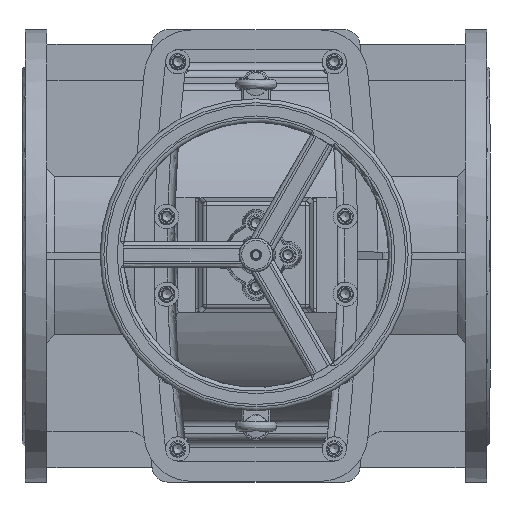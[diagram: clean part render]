
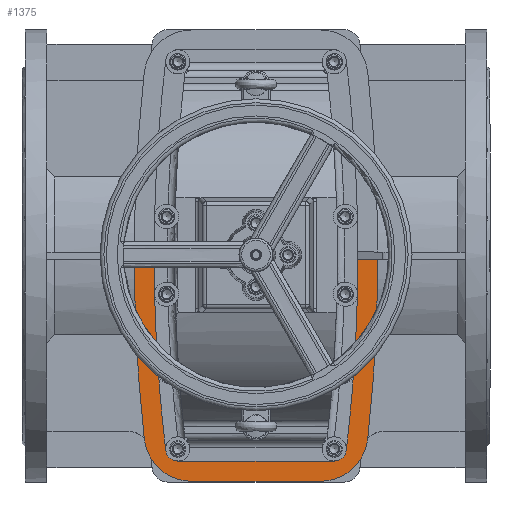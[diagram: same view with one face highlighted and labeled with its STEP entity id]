
A CAD part, top view. The second image highlights one B-rep face of the part: STEP entity #1375.
In plain terms, the highlighted planar face has unit normal (0, 0, 1).
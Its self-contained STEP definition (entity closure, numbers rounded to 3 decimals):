
#1375=ADVANCED_FACE('',(#7932),#7934,.T.);
#7932=FACE_BOUND('',#7933,.T.);
#7933=EDGE_LOOP('',(#27235,#27236,#27237,#27238,#27239,#27240,#27241,#27242,#27243,
#27244,#27245,#27246));
#7934=PLANE('',#7935);
#7935=AXIS2_PLACEMENT_3D('',#7936,#7937,#7938);
#7936=CARTESIAN_POINT('',(0.,0.,336.667));
#7937=DIRECTION('',(0.,0.,1.));
#7938=DIRECTION('',(-1.,0.,0.));
#27235=ORIENTED_EDGE('',*,*,#32142,.F.);
#27236=ORIENTED_EDGE('',*,*,#32352,.T.);
#27237=ORIENTED_EDGE('',*,*,#32353,.T.);
#27238=ORIENTED_EDGE('',*,*,#32354,.T.);
#27239=ORIENTED_EDGE('',*,*,#32355,.T.);
#27240=ORIENTED_EDGE('',*,*,#32356,.T.);
#27241=ORIENTED_EDGE('',*,*,#32098,.F.);
#27242=ORIENTED_EDGE('',*,*,#32351,.T.);
#27243=ORIENTED_EDGE('',*,*,#32357,.T.);
#27244=ORIENTED_EDGE('',*,*,#32358,.T.);
#27245=ORIENTED_EDGE('',*,*,#32359,.T.);
#27246=ORIENTED_EDGE('',*,*,#32360,.T.);
#32098=EDGE_CURVE('',#35072,#35074,#35075,.F.);
#32142=EDGE_CURVE('',#35153,#35155,#35156,.F.);
#32351=EDGE_CURVE('',#35072,#35545,#35547,.T.);
#32352=EDGE_CURVE('',#35153,#35548,#35549,.F.);
#32353=EDGE_CURVE('',#35548,#35550,#35551,.T.);
#32354=EDGE_CURVE('',#35550,#35552,#35553,.T.);
#32355=EDGE_CURVE('',#35552,#35554,#35555,.T.);
#32356=EDGE_CURVE('',#35554,#35074,#35556,.F.);
#32357=EDGE_CURVE('',#35545,#35557,#35558,.T.);
#32358=EDGE_CURVE('',#35557,#35559,#35560,.T.);
#32359=EDGE_CURVE('',#35559,#35561,#35562,.T.);
#32360=EDGE_CURVE('',#35561,#35155,#35563,.T.);
#35072=VERTEX_POINT('',#46223);
#35074=VERTEX_POINT('',#46227);
#35075=LINE('',#46228,#46229);
#35153=VERTEX_POINT('',#46672);
#35155=VERTEX_POINT('',#46676);
#35156=LINE('',#46677,#46678);
#35545=VERTEX_POINT('',#47760);
#35547=CIRCLE('',#47764,2130.302);
#35548=VERTEX_POINT('',#47768);
#35549=CIRCLE('',#47769,2078.302);
#35550=VERTEX_POINT('',#47773);
#35551=CIRCLE('',#47774,9.333);
#35552=VERTEX_POINT('',#47778);
#35553=LINE('',#47779,#47780);
#35554=VERTEX_POINT('',#47782);
#35555=CIRCLE('',#47783,9.333);
#35556=CIRCLE('',#47787,2078.302);
#35557=VERTEX_POINT('',#47791);
#35558=CIRCLE('',#47792,61.333);
#35559=VERTEX_POINT('',#47796);
#35560=LINE('',#47797,#47798);
#35561=VERTEX_POINT('',#47800);
#35562=CIRCLE('',#47801,61.333);
#35563=CIRCLE('',#47805,2130.302);
#46223=CARTESIAN_POINT('',(-156.229,-4.667,336.667));
#46227=CARTESIAN_POINT('',(-104.228,-4.667,336.667));
#46228=CARTESIAN_POINT('',(-104.228,-4.667,336.667));
#46229=VECTOR('',#46230,1.);
#46230=DIRECTION('',(-1.,0.,0.));
#46672=CARTESIAN_POINT('',(104.228,-4.667,336.667));
#46676=CARTESIAN_POINT('',(156.229,-4.667,336.667));
#46677=CARTESIAN_POINT('',(156.229,-4.667,336.667));
#46678=VECTOR('',#46679,1.);
#46679=DIRECTION('',(-1.,0.,0.));
#47760=CARTESIAN_POINT('',(-143.259,-234.759,336.667));
#47764=AXIS2_PLACEMENT_3D('',#47765,#47766,#47767);
#47765=CARTESIAN_POINT('',(1974.068,0.,336.667));
#47766=DIRECTION('',(0.,0.,1.));
#47767=DIRECTION('',(-1.,-0.002,0.));
#47768=CARTESIAN_POINT('',(91.576,-229.029,336.667));
#47769=AXIS2_PLACEMENT_3D('',#47770,#47771,#47772);
#47770=CARTESIAN_POINT('',(-1974.068,0.,336.667));
#47771=DIRECTION('',(0.,0.,1.));
#47772=DIRECTION('',(0.994,-0.11,0.));
#47773=CARTESIAN_POINT('',(82.299,-237.333,336.667));
#47774=AXIS2_PLACEMENT_3D('',#47775,#47776,#47777);
#47775=CARTESIAN_POINT('',(82.299,-228.,336.667));
#47776=DIRECTION('',(0.,0.,-1.));
#47777=DIRECTION('',(0.994,-0.11,0.));
#47778=CARTESIAN_POINT('',(-82.299,-237.333,336.667));
#47779=CARTESIAN_POINT('',(82.299,-237.333,336.667));
#47780=VECTOR('',#47781,1.);
#47781=DIRECTION('',(-1.,0.,0.));
#47782=CARTESIAN_POINT('',(-91.576,-229.029,336.667));
#47783=AXIS2_PLACEMENT_3D('',#47784,#47785,#47786);
#47784=CARTESIAN_POINT('',(-82.299,-228.,336.667));
#47785=DIRECTION('',(0.,0.,-1.));
#47786=DIRECTION('',(0.,-1.,0.));
#47787=AXIS2_PLACEMENT_3D('',#47788,#47789,#47790);
#47788=CARTESIAN_POINT('',(1974.068,0.,336.667));
#47789=DIRECTION('',(0.,0.,1.));
#47790=DIRECTION('',(-1.,-0.002,0.));
#47791=CARTESIAN_POINT('',(-82.299,-289.333,336.667));
#47792=AXIS2_PLACEMENT_3D('',#47793,#47794,#47795);
#47793=CARTESIAN_POINT('',(-82.299,-228.,336.667));
#47794=DIRECTION('',(0.,0.,1.));
#47795=DIRECTION('',(-0.994,-0.11,0.));
#47796=CARTESIAN_POINT('',(82.299,-289.333,336.667));
#47797=CARTESIAN_POINT('',(-82.299,-289.333,336.667));
#47798=VECTOR('',#47799,1.);
#47799=DIRECTION('',(1.,0.,0.));
#47800=CARTESIAN_POINT('',(143.259,-234.759,336.667));
#47801=AXIS2_PLACEMENT_3D('',#47802,#47803,#47804);
#47802=CARTESIAN_POINT('',(82.299,-228.,336.667));
#47803=DIRECTION('',(0.,0.,1.));
#47804=DIRECTION('',(0.,-1.,0.));
#47805=AXIS2_PLACEMENT_3D('',#47806,#47807,#47808);
#47806=CARTESIAN_POINT('',(-1974.068,0.,336.667));
#47807=DIRECTION('',(0.,0.,1.));
#47808=DIRECTION('',(0.994,-0.11,0.));
